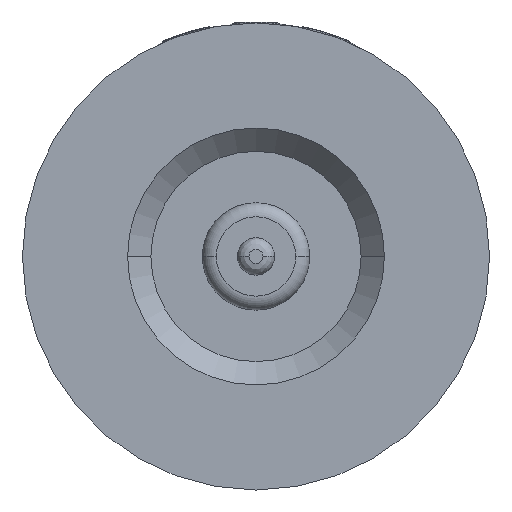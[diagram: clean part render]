
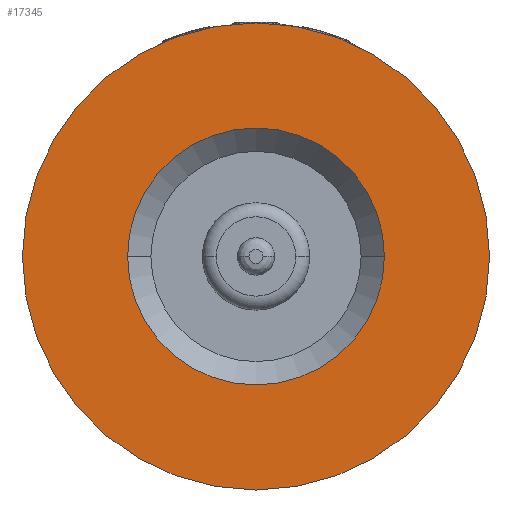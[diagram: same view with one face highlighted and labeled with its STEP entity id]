
A CAD part, left-side view. The second image highlights one B-rep face of the part: STEP entity #17345.
In plain terms, the highlighted planar face has unit normal (-1, 0, 0).
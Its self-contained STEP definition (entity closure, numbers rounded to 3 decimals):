
#15=CARTESIAN_POINT('',(0.,0.,0.));
#16=DIRECTION('',(-1.,0.,0.));
#17=DIRECTION('',(0.,1.,0.));
#18=AXIS2_PLACEMENT_3D('',#15,#16,#17);
#24=CARTESIAN_POINT('',(0.,0.,0.));
#25=DIRECTION('',(1.,0.,0.));
#26=DIRECTION('',(0.,1.,0.));
#27=AXIS2_PLACEMENT_3D('',#24,#25,#26);
#15198=CARTESIAN_POINT('',(0.,0.,0.));
#15199=DIRECTION('',(1.,0.,0.));
#15200=DIRECTION('',(0.,1.,0.));
#15201=AXIS2_PLACEMENT_3D('',#15198,#15199,#15200);
#15295=CARTESIAN_POINT('',(0.,0.,0.));
#15296=DIRECTION('',(-1.,0.,0.));
#15297=DIRECTION('',(0.,1.,0.));
#15298=AXIS2_PLACEMENT_3D('',#15295,#15296,#15297);
#15522=CARTESIAN_POINT('',(0.,5.,0.));
#15524=VERTEX_POINT('',#15522);
#15542=CARTESIAN_POINT('',(0.,-5.,0.));
#15544=VERTEX_POINT('',#15542);
#15545=CARTESIAN_POINT('',(0.,2.75,0.));
#15546=CARTESIAN_POINT('',(0.,-2.75,0.));
#15547=VERTEX_POINT('',#15545);
#15548=VERTEX_POINT('',#15546);
#17328=CARTESIAN_POINT('',(0.,0.,0.));
#17329=DIRECTION('',(-1.,0.,0.));
#17330=DIRECTION('',(0.,1.,0.));
#17331=AXIS2_PLACEMENT_3D('',#17328,#17329,#17330);
#17332=PLANE('',#17331);
#17334=ORIENTED_EDGE('',*,*,#17333,.F.);
#17336=ORIENTED_EDGE('',*,*,#17335,.T.);
#17337=EDGE_LOOP('',(#17334,#17336));
#17338=FACE_OUTER_BOUND('',#17337,.F.);
#17340=ORIENTED_EDGE('',*,*,#17339,.F.);
#17342=ORIENTED_EDGE('',*,*,#17341,.T.);
#17343=EDGE_LOOP('',(#17340,#17342));
#17344=FACE_BOUND('',#17343,.F.);
#17345=ADVANCED_FACE('',(#17338,#17344),#17332,.T.);
#19=CIRCLE('',#18,5.);
#28=CIRCLE('',#27,5.);
#15202=CIRCLE('',#15201,2.75);
#15299=CIRCLE('',#15298,2.75);
#17333=EDGE_CURVE('',#15524,#15544,#19,.T.);
#17335=EDGE_CURVE('',#15524,#15544,#28,.T.);
#17339=EDGE_CURVE('',#15547,#15548,#15202,.T.);
#17341=EDGE_CURVE('',#15547,#15548,#15299,.T.);
